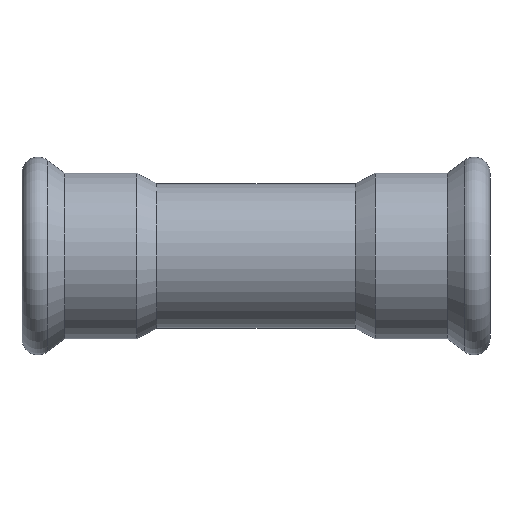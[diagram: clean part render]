
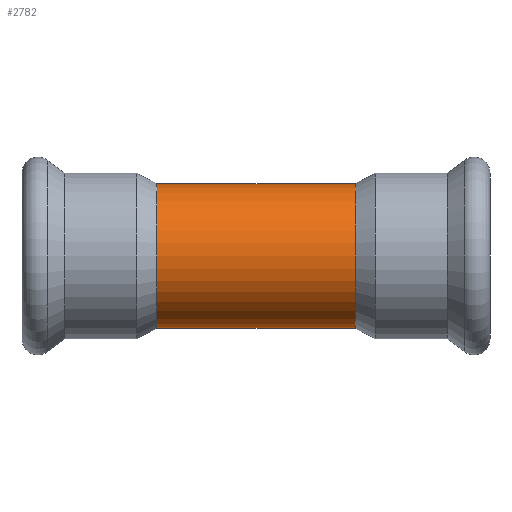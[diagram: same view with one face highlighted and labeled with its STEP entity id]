
A CAD part, front view. The second image highlights one B-rep face of the part: STEP entity #2782.
In plain terms, the highlighted cylindrical face has radius 13.6 mm (diameter 27.2 mm), a partial arc.
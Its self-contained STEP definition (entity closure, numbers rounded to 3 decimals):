
#42 = CARTESIAN_POINT ( 'NONE',  ( 18.626, 0., 13.6 ) ) ;
#278 = CARTESIAN_POINT ( 'NONE',  ( 18.626, 0., -13.6 ) ) ;
#415 = ORIENTED_EDGE ( 'NONE', *, *, #2407, .T. ) ;
#1069 = ORIENTED_EDGE ( 'NONE', *, *, #1691, .F. ) ;
#1151 = CARTESIAN_POINT ( 'NONE',  ( -18.626, 0., -13.6 ) ) ;
#1336 = CARTESIAN_POINT ( 'NONE',  ( -18.626, 0., 0. ) ) ;
#1491 = LINE ( 'NONE', #2538, #6475 ) ;
#1556 = CARTESIAN_POINT ( 'NONE',  ( 0., 0., 0. ) ) ;
#1691 = EDGE_CURVE ( 'NONE', #4827, #4924, #4115, .T. ) ;
#1809 = VECTOR ( 'NONE', #1864, 1000. ) ;
#1864 = DIRECTION ( 'NONE',  ( -1., 0., 0. ) ) ;
#2021 = AXIS2_PLACEMENT_3D ( 'NONE', #2532, #3002, #2498 ) ;
#2407 = EDGE_CURVE ( 'NONE', #5125, #4924, #1491, .T. ) ;
#2498 = DIRECTION ( 'NONE',  ( 0., 0., 1. ) ) ;
#2532 = CARTESIAN_POINT ( 'NONE',  ( 18.626, 0., 0. ) ) ;
#2538 = CARTESIAN_POINT ( 'NONE',  ( 0., 0., 13.6 ) ) ;
#2557 = AXIS2_PLACEMENT_3D ( 'NONE', #1336, #4781, #6797 ) ;
#2641 = VERTEX_POINT ( 'NONE', #278 ) ;
#2658 = DIRECTION ( 'NONE',  ( 0., 0., 1. ) ) ;
#2720 = AXIS2_PLACEMENT_3D ( 'NONE', #1556, #5751, #2658 ) ;
#2782 = ADVANCED_FACE ( 'NONE', ( #4775 ), #3069, .T. ) ;
#2827 = LINE ( 'NONE', #6586, #1809 ) ;
#3002 = DIRECTION ( 'NONE',  ( -1., 0., 0. ) ) ;
#3069 = CYLINDRICAL_SURFACE ( 'NONE', #2720, 13.6 ) ;
#3569 = DIRECTION ( 'NONE',  ( -1., 0., 0. ) ) ;
#4115 = CIRCLE ( 'NONE', #2557, 13.6 ) ;
#4775 = FACE_OUTER_BOUND ( 'NONE', #5506, .T. ) ;
#4781 = DIRECTION ( 'NONE',  ( -1., 0., 0. ) ) ;
#4827 = VERTEX_POINT ( 'NONE', #1151 ) ;
#4851 = ORIENTED_EDGE ( 'NONE', *, *, #5598, .F. ) ;
#4924 = VERTEX_POINT ( 'NONE', #6516 ) ;
#5125 = VERTEX_POINT ( 'NONE', #42 ) ;
#5506 = EDGE_LOOP ( 'NONE', ( #4851, #6818, #415, #1069 ) ) ;
#5598 = EDGE_CURVE ( 'NONE', #2641, #4827, #2827, .T. ) ;
#5647 = CIRCLE ( 'NONE', #2021, 13.6 ) ;
#5751 = DIRECTION ( 'NONE',  ( -1., 0., 0. ) ) ;
#6475 = VECTOR ( 'NONE', #3569, 1000. ) ;
#6516 = CARTESIAN_POINT ( 'NONE',  ( -18.626, 0., 13.6 ) ) ;
#6586 = CARTESIAN_POINT ( 'NONE',  ( 0., 0., -13.6 ) ) ;
#6721 = EDGE_CURVE ( 'NONE', #2641, #5125, #5647, .T. ) ;
#6797 = DIRECTION ( 'NONE',  ( 0., 0., 1. ) ) ;
#6818 = ORIENTED_EDGE ( 'NONE', *, *, #6721, .T. ) ;
